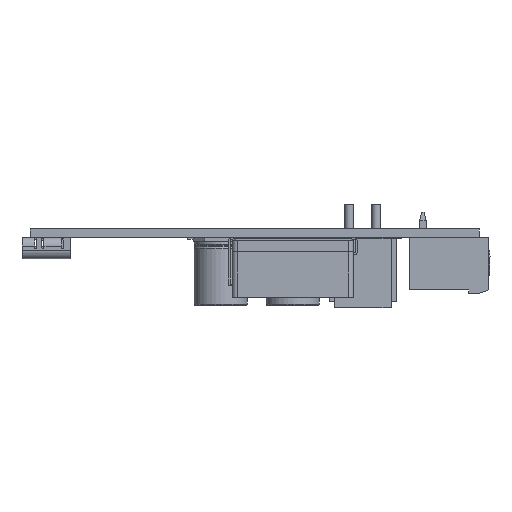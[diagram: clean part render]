
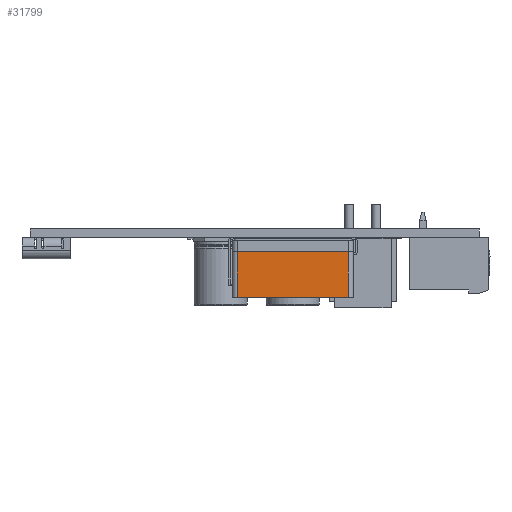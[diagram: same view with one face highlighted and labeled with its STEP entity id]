
A CAD part, left-side view. The second image highlights one B-rep face of the part: STEP entity #31799.
In plain terms, the highlighted planar face has unit normal (-1, 0, 0) as drawn and (0, 1, 0) by its records, which use the part's own axes.
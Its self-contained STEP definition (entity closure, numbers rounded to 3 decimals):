
#2541=FACE_OUTER_BOUND('',#4295,.T.);
#4295=EDGE_LOOP('',(#21661,#21662,#21663,#21664));
#6114=LINE('',#45631,#9804);
#6128=LINE('',#45670,#9818);
#6129=LINE('',#45674,#9819);
#6130=LINE('',#45675,#9820);
#9804=VECTOR('',#36742,10.);
#9818=VECTOR('',#36780,10.);
#9819=VECTOR('',#36785,10.);
#9820=VECTOR('',#36786,10.);
#13518=VERTEX_POINT('',#45628);
#13519=VERTEX_POINT('',#45630);
#13532=VERTEX_POINT('',#45669);
#13533=VERTEX_POINT('',#45673);
#16676=EDGE_CURVE('',#13518,#13519,#6114,.T.);
#16696=EDGE_CURVE('',#13519,#13532,#6128,.T.);
#16698=EDGE_CURVE('',#13518,#13533,#6129,.T.);
#16699=EDGE_CURVE('',#13533,#13532,#6130,.T.);
#21661=ORIENTED_EDGE('',*,*,#16696,.F.);
#21662=ORIENTED_EDGE('',*,*,#16676,.F.);
#21663=ORIENTED_EDGE('',*,*,#16698,.T.);
#21664=ORIENTED_EDGE('',*,*,#16699,.T.);
#30507=PLANE('',#33758);
#31799=ADVANCED_FACE('',(#2541),#30507,.T.);
#33758=AXIS2_PLACEMENT_3D('',#45672,#36783,#36784);
#36742=DIRECTION('',(1.,0.,0.));
#36780=DIRECTION('',(0.,0.,1.));
#36783=DIRECTION('center_axis',(0.,1.,0.));
#36784=DIRECTION('ref_axis',(0.,0.,1.));
#36785=DIRECTION('',(0.,0.,1.));
#36786=DIRECTION('',(1.,0.,0.));
#45628=CARTESIAN_POINT('',(710.662,578.283,-205.273));
#45630=CARTESIAN_POINT('',(727.341,578.283,-205.273));
#45631=CARTESIAN_POINT('',(710.662,578.283,-205.273));
#45669=CARTESIAN_POINT('',(727.341,578.283,-198.373));
#45670=CARTESIAN_POINT('',(727.341,578.283,-205.273));
#45672=CARTESIAN_POINT('Origin',(728.026,578.283,-201.823));
#45673=CARTESIAN_POINT('',(710.662,578.283,-198.373));
#45674=CARTESIAN_POINT('',(710.662,578.283,-205.273));
#45675=CARTESIAN_POINT('',(710.662,578.283,-198.373));
